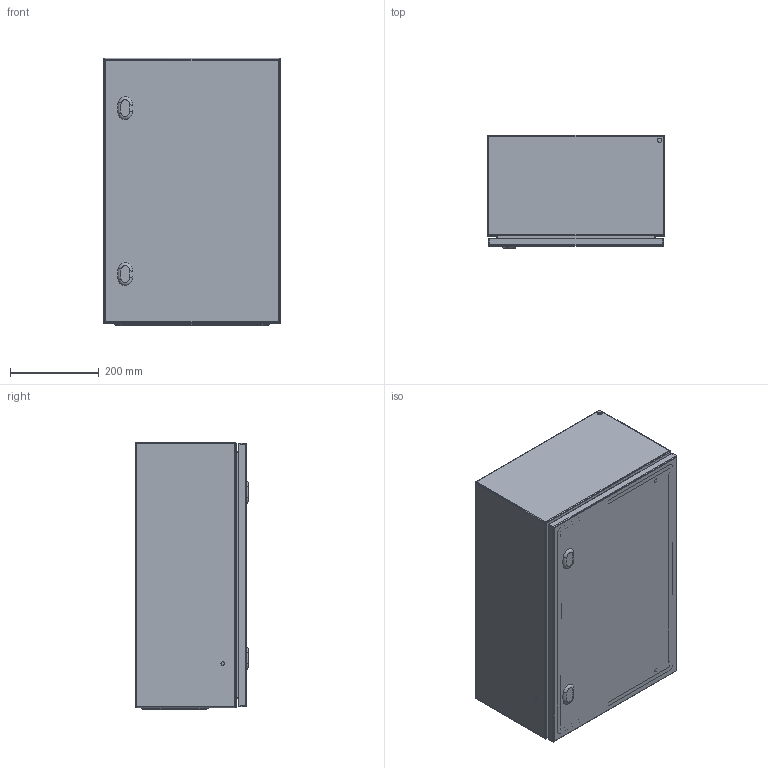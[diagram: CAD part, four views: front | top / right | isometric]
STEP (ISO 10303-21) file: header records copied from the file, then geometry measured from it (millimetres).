
FILE_DESCRIPTION(/* description */ ('STEP AP214'),/* implementation_level */ '2;1');
FILE_NAME(/* name */ 'EC040625-LOD400',/* time_stamp */ '2025-07-31T12:00:48+02:00',/* author */ ('License CC BY-ND 4.0'),/* organization */ ('CADENAS'),/* preprocessor_version */ 'ST-DEVELOPER v19.3',/* originating_system */ 'PARTsolutions',/* authorisation */ ' ');
FILE_SCHEMA (('AUTOMOTIVE_DESIGN {1 0 10303 214 3 1 1}'));
Length unit declared in the file: millimetre
Products named in the file (5): EC040625-LOD400; EC040625-LOD400_cabinet; EC040625-LOD400_door; EC040625-LOD400_bottom_plate; EC040625-LOD400_inner_plate
Assembly tree (4 placements, depth 2):
  EC040625-LOD400
    EC040625-LOD400_cabinet
    EC040625-LOD400_door
    EC040625-LOD400_bottom_plate
    EC040625-LOD400_inner_plate
Bounding box: 400 x 255 x 604 mm (x, y, z)
Volume: 2126890.4 mm3; surface area: 2562031.3 mm2
Topology: 4 solids, 4 shells, 522 faces, 1256 edges, 818 vertices
Faces by surface type: cylinder 220, plane 208, torus 48, cone 46
Full cylindrical faces by diameter (mm): 1 x48, 4.5 x46, 5 x4, 5.5 x4, 6 x4, 7 x4, 8 x12, 10 x10, 14 x4
Entity records: 14347 total; most frequent: DIRECTION 2638, CARTESIAN_POINT 2303, ORIENTED_EDGE 2028, AXIS2_PLACEMENT_3D 1097, EDGE_CURVE 1014, EDGE_LOOP 938, FACE_BOUND 938, VERTEX_POINT 762
